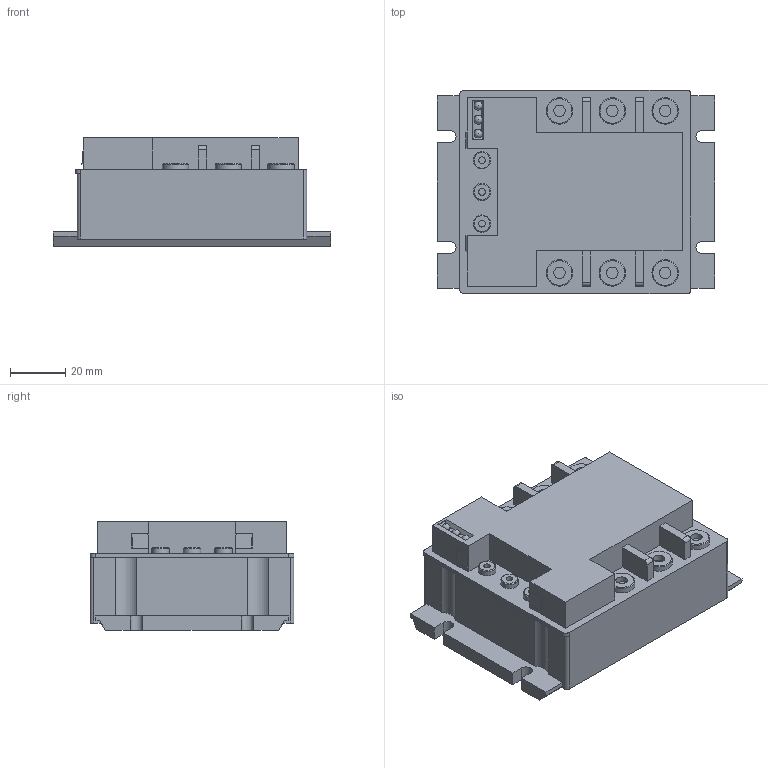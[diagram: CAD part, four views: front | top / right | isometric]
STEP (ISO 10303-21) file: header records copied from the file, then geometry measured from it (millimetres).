
FILE_DESCRIPTION((''),'2;1');
FILE_NAME('C:\Vault_local\Designs\Stock\3D pour clients\préparations\2D3D 534 A.stp','2009-08-14T07:13:45',('Georges THOLLOT ','Responsible for','Methods and Industrialization',' Tl : +33 (0)4 77 53 90 27','gthollot@celduc.com'),('Celduc r e l a i s','5, rue Ampre, BP 30004','42290 SORBIERS - France','Fax. : +33 (0)4 77 53 85 51','N siret 353 310 519 00015','ISO 9001 N QUAL/1993/1106b','www.celduc.com'),'Autodesk Inventor 2009','Autodesk Inventor 2009','');
FILE_SCHEMA(('AUTOMOTIVE_DESIGN { 1 0 10303 214 1 1 1 1 }'));
Length unit declared in the file: millimetre
Products named in the file (1): SGT
Bounding box: 100 x 73.45 x 39.2 mm (x, y, z)
Volume: 214452.3 mm3; surface area: 28481 mm2
Topology: 1 solids, 1 shells, 182 faces, 491 edges, 330 vertices
Faces by surface type: plane 114, cylinder 43, bspline 13, cone 9, sphere 3
Full cylindrical faces by diameter (mm): 4.134 x6, 6.3 x3, 9.5 x6
Entity records: 5751 total; most frequent: CARTESIAN_POINT 1097, DIRECTION 933, ORIENTED_EDGE 880, EDGE_CURVE 440, AXIS2_PLACEMENT_3D 323, VERTEX_POINT 309, VECTOR 287, LINE 287
